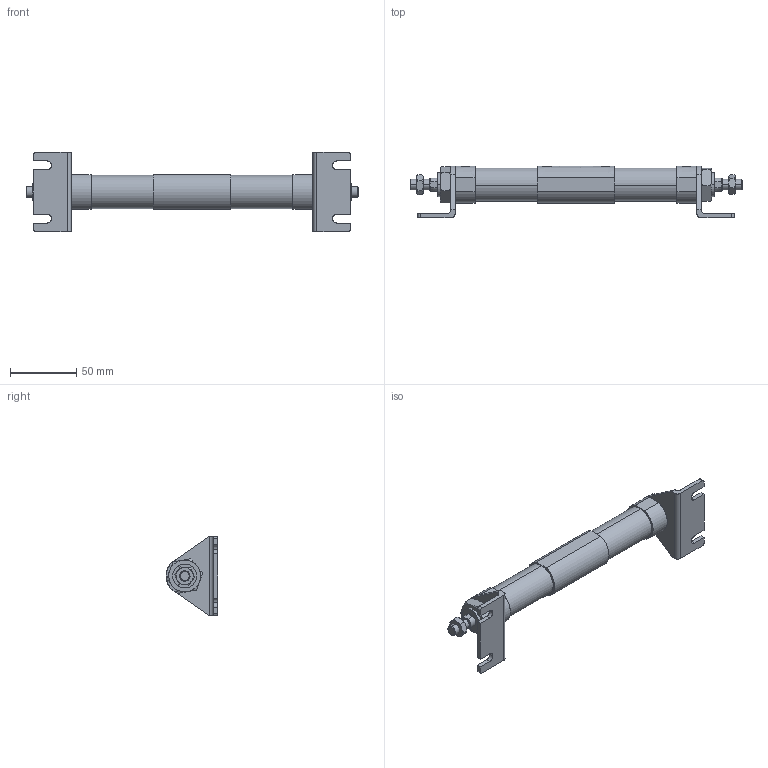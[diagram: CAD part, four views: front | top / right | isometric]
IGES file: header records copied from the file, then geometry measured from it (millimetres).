
Start section: SolidWorks IGES file using analytic representation for surfaces
Global section: file name: C:\Users\Toshiba\Desktop\JGD7-20-15-15-L.IGS; native system: SolidWorks 2014; preprocessor: SolidWorks 2014; author: Toshiba; date: 160419.152103; units: millimetre
Bounding box: 250 x 39 x 60 mm (x, y, z)
Surface area: 41184.4 mm2 (no closed solid volume)
Topology: 0 solids, 0 shells, 220 faces, 3688 edges, 3688 vertices
Faces by surface type: bspline 146, revolution 74
